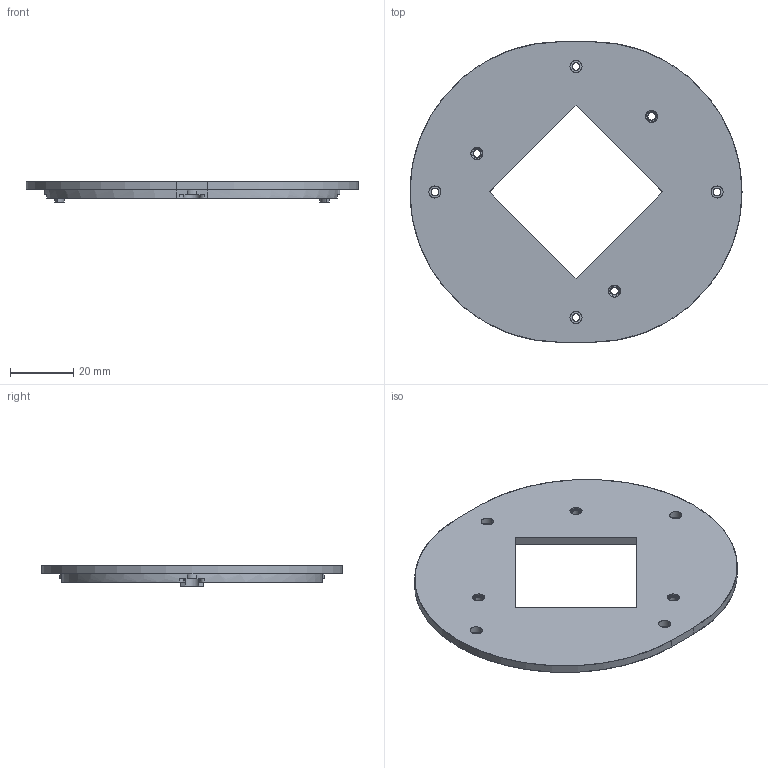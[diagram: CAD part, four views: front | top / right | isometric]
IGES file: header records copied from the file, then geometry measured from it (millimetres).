
Start section: SolidWorks IGES file using analytic representation for surfaces
Global section: file name: C:\Users\egger\OneDrive\MR SPEAKERS\PRODUCTION\T50RP HEADPHONES\OPEN ALPHA\OPEN ALPHA\IGES AND PARASOLIDS\ALPHA, BAFFLE.IGS; native system: SolidWorks 2016; preprocessor: SolidWorks 2016; author: egger; date: 161118.063112; units: inch
Bounding box: 105.21 x 95.25 x 6.35 mm (x, y, z)
Surface area: 15811.5 mm2 (no closed solid volume)
Topology: 0 solids, 0 shells, 225 faces, 3061 edges, 3055 vertices
Faces by surface type: revolution 124, bspline 101
